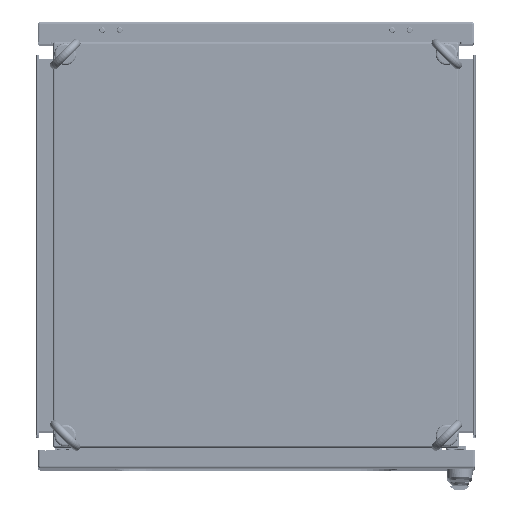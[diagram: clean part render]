
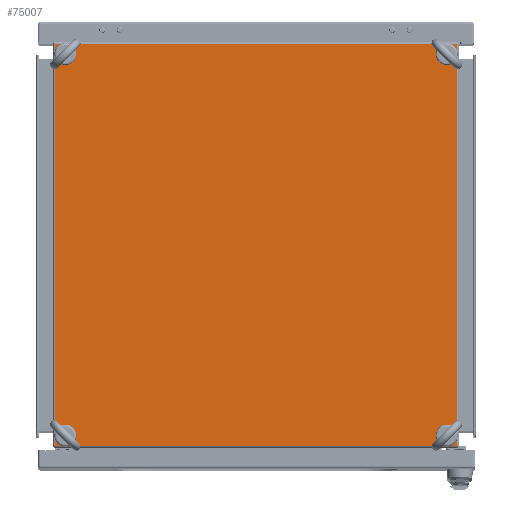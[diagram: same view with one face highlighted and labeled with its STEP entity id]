
A CAD part, top view. The second image highlights one B-rep face of the part: STEP entity #75007.
In plain terms, the highlighted planar face has unit normal (0, 0, 1).
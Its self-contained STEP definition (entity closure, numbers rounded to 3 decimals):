
#7509=LINE('',#119955,#14664);
#7510=LINE('',#119958,#14665);
#7511=LINE('',#119960,#14666);
#7512=LINE('',#119962,#14667);
#14664=VECTOR('',#96772,1000.);
#14665=VECTOR('',#96773,1000.);
#14666=VECTOR('',#96774,1000.);
#14667=VECTOR('',#96775,1000.);
#27621=ORIENTED_EDGE('',*,*,#43665,.F.);
#27622=ORIENTED_EDGE('',*,*,#43666,.F.);
#27623=ORIENTED_EDGE('',*,*,#43667,.F.);
#27624=ORIENTED_EDGE('',*,*,#43668,.F.);
#27625=ORIENTED_EDGE('',*,*,#43669,.T.);
#27626=ORIENTED_EDGE('',*,*,#43670,.F.);
#27627=ORIENTED_EDGE('',*,*,#43671,.T.);
#27628=ORIENTED_EDGE('',*,*,#43672,.T.);
#43665=EDGE_CURVE('',#52608,#52608,#57075,.T.);
#43666=EDGE_CURVE('',#52609,#52609,#57076,.T.);
#43667=EDGE_CURVE('',#52610,#52610,#57077,.T.);
#43668=EDGE_CURVE('',#52611,#52611,#57078,.T.);
#43669=EDGE_CURVE('',#52612,#52613,#7509,.T.);
#43670=EDGE_CURVE('',#52614,#52613,#7510,.F.);
#43671=EDGE_CURVE('',#52614,#52615,#7511,.T.);
#43672=EDGE_CURVE('',#52615,#52612,#7512,.T.);
#52608=VERTEX_POINT('',#119948);
#52609=VERTEX_POINT('',#119950);
#52610=VERTEX_POINT('',#119952);
#52611=VERTEX_POINT('',#119954);
#52612=VERTEX_POINT('',#119956);
#52613=VERTEX_POINT('',#119957);
#52614=VERTEX_POINT('',#119959);
#52615=VERTEX_POINT('',#119961);
#57075=CIRCLE('',#83359,6.5);
#57076=CIRCLE('',#83360,6.5);
#57077=CIRCLE('',#83361,6.5);
#57078=CIRCLE('',#83362,6.5);
#61770=EDGE_LOOP('',(#27621));
#61771=EDGE_LOOP('',(#27622));
#61772=EDGE_LOOP('',(#27623));
#61773=EDGE_LOOP('',(#27624));
#61774=EDGE_LOOP('',(#27625,#27626,#27627,#27628));
#67734=FACE_BOUND('',#61770,.T.);
#67735=FACE_BOUND('',#61771,.T.);
#67736=FACE_BOUND('',#61772,.T.);
#67737=FACE_BOUND('',#61773,.T.);
#67738=FACE_BOUND('',#61774,.T.);
#72076=PLANE('',#83358);
#75007=ADVANCED_FACE('',(#67734,#67735,#67736,#67737,#67738),#72076,.F.);
#83358=AXIS2_PLACEMENT_3D('',#119946,#96762,#96763);
#83359=AXIS2_PLACEMENT_3D('',#119947,#96764,#96765);
#83360=AXIS2_PLACEMENT_3D('',#119949,#96766,#96767);
#83361=AXIS2_PLACEMENT_3D('',#119951,#96768,#96769);
#83362=AXIS2_PLACEMENT_3D('',#119953,#96770,#96771);
#96762=DIRECTION('',(0.,0.,-1.));
#96763=DIRECTION('',(-1.,0.,0.));
#96764=DIRECTION('',(0.,0.,1.));
#96765=DIRECTION('',(1.,0.,0.));
#96766=DIRECTION('',(0.,0.,1.));
#96767=DIRECTION('',(1.,0.,0.));
#96768=DIRECTION('',(0.,0.,1.));
#96769=DIRECTION('',(1.,0.,0.));
#96770=DIRECTION('',(0.,0.,1.));
#96771=DIRECTION('',(1.,0.,0.));
#96772=DIRECTION('',(0.,-1.,0.));
#96773=DIRECTION('',(1.,0.,0.));
#96774=DIRECTION('',(0.,1.,0.));
#96775=DIRECTION('',(-1.,0.,0.));
#119946=CARTESIAN_POINT('',(0.,0.,0.));
#119947=CARTESIAN_POINT('',(260.5,260.5,0.));
#119948=CARTESIAN_POINT('',(267.,260.5,0.));
#119949=CARTESIAN_POINT('',(-260.5,260.5,0.));
#119950=CARTESIAN_POINT('',(-254.,260.5,0.));
#119951=CARTESIAN_POINT('',(260.5,-260.5,0.));
#119952=CARTESIAN_POINT('',(267.,-260.5,0.));
#119953=CARTESIAN_POINT('',(-260.5,-260.5,0.));
#119954=CARTESIAN_POINT('',(-254.,-260.5,0.));
#119955=CARTESIAN_POINT('',(-274.2,274.2,0.));
#119956=CARTESIAN_POINT('',(-274.2,274.2,0.));
#119957=CARTESIAN_POINT('',(-274.2,-274.2,0.));
#119958=CARTESIAN_POINT('',(274.2,-274.2,0.));
#119959=CARTESIAN_POINT('',(274.2,-274.2,0.));
#119960=CARTESIAN_POINT('',(274.2,-274.2,0.));
#119961=CARTESIAN_POINT('',(274.2,274.2,0.));
#119962=CARTESIAN_POINT('',(274.2,274.2,0.));
